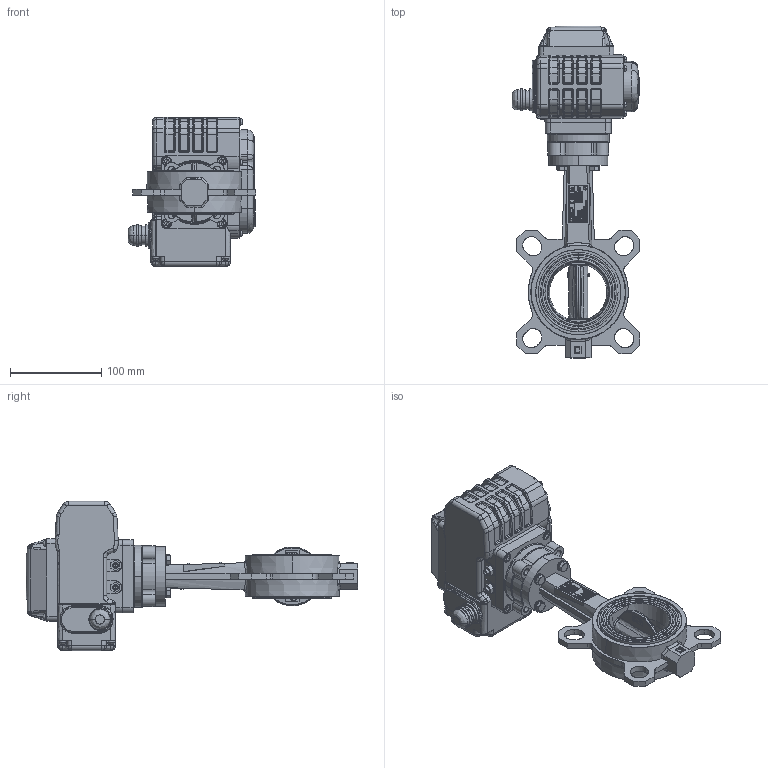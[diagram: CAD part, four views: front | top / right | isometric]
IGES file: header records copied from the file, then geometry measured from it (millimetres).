
Start section: SolidWorks IGES file using analytic representation for surfaces
Global section: file name: H:\BE FABRICATION\BE SERIE\VP\VP SERIE\F072 VPG\plan 3D\VPG-N04\WAFER\DN65\VPG444X-NX4XX0065.igs; native system: SolidWorks 2020; preprocessor: SolidWorks 2020; author: k.gigout; date: 220706.100055; units: millimetre
Bounding box: 140.06 x 363.3 x 163.2 mm (x, y, z)
Surface area: 179364.2 mm2 (no closed solid volume)
Topology: 0 solids, 0 shells, 1409 faces, 24020 edges, 23928 vertices
Faces by surface type: bspline 874, revolution 535
